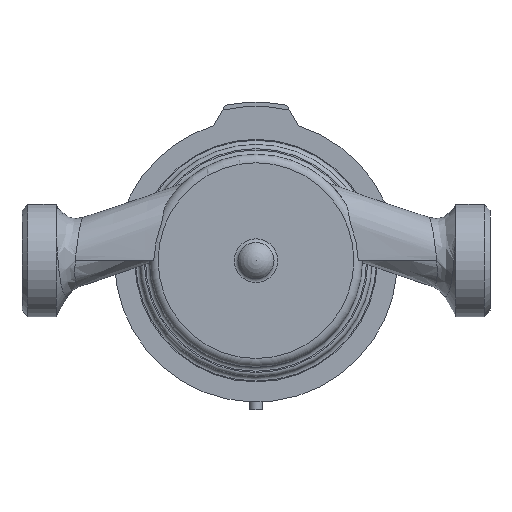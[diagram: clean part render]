
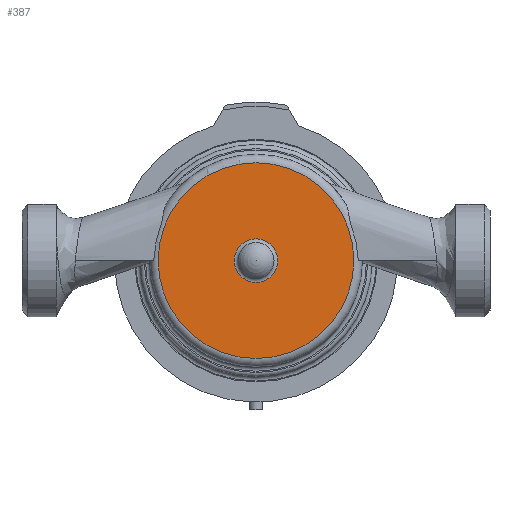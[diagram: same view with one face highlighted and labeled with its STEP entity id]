
A CAD part, front view. The second image highlights one B-rep face of the part: STEP entity #387.
In plain terms, the highlighted planar face has unit normal (0, -1, 0).
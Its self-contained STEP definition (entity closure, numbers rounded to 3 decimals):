
#360=CARTESIAN_POINT('',(4.5,-10.2,-0.));
#361=DIRECTION('',(0.,-1.,-0.));
#362=DIRECTION('',(-1.,0.,0.));
#363=AXIS2_PLACEMENT_3D('',#360,#361,#362);
#364=PLANE('',#363);
#365=CARTESIAN_POINT('',(-5.123,-10.2,0.));
#366=VERTEX_POINT('',#365);
#367=CARTESIAN_POINT('',(0.,-10.2,-0.));
#368=DIRECTION('',(0.,1.,0.));
#369=DIRECTION('',(-1.,0.,0.));
#370=AXIS2_PLACEMENT_3D('',#367,#368,#369);
#371=CIRCLE('',#370,5.123);
#372=EDGE_CURVE('',#366,#366,#371,.T.);
#373=ORIENTED_EDGE('',*,*,#372,.T.);
#374=EDGE_LOOP('',(#373));
#375=FACE_BOUND('',#374,.T.);
#376=CARTESIAN_POINT('',(-23.,-10.2,0.));
#377=VERTEX_POINT('',#376);
#378=CARTESIAN_POINT('',(0.,-10.2,-0.));
#379=DIRECTION('',(-0.,-1.,-0.));
#380=DIRECTION('',(-1.,0.,0.));
#381=AXIS2_PLACEMENT_3D('',#378,#379,#380);
#382=CIRCLE('',#381,23.);
#383=EDGE_CURVE('',#377,#377,#382,.T.);
#384=ORIENTED_EDGE('',*,*,#383,.T.);
#385=EDGE_LOOP('',(#384));
#386=FACE_BOUND('',#385,.T.);
#387=ADVANCED_FACE('',(#375,#386),#364,.T.);
